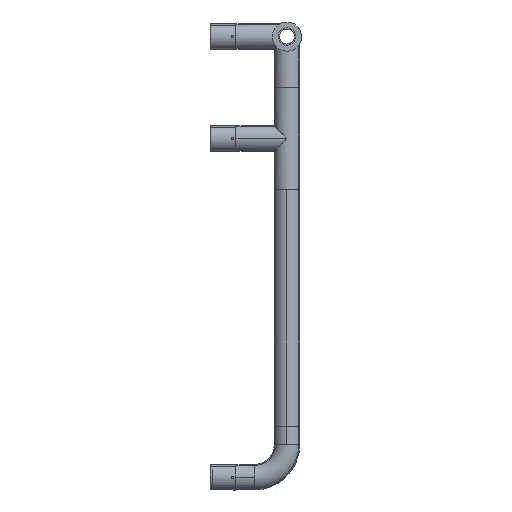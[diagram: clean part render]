
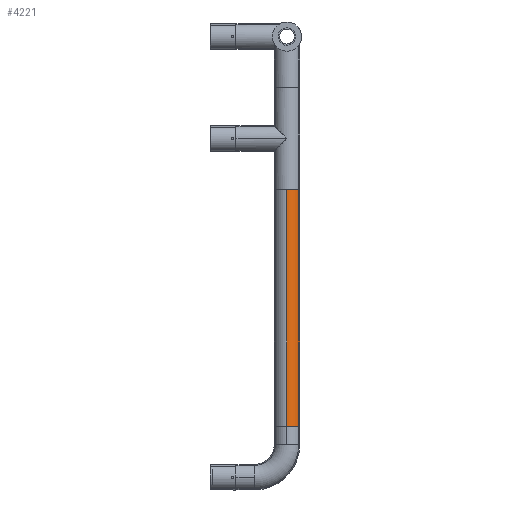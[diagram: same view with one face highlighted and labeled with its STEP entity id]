
A CAD part, front view. The second image highlights one B-rep face of the part: STEP entity #4221.
In plain terms, the highlighted cylindrical face has radius 17.5 mm (diameter 35 mm), a partial arc.
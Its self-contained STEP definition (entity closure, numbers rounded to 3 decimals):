
#50 = VECTOR ( 'NONE', #1231, 1000. ) ;
#373 = CARTESIAN_POINT ( 'NONE',  ( 0., 0., -162.5 ) ) ;
#460 = AXIS2_PLACEMENT_3D ( 'NONE', #2343, #1040, #1349 ) ;
#524 = CARTESIAN_POINT ( 'NONE',  ( 17.5, 0., 162.5 ) ) ;
#580 = ORIENTED_EDGE ( 'NONE', *, *, #1790, .F. ) ;
#803 = EDGE_LOOP ( 'NONE', ( #3957, #1683, #1093, #580 ) ) ;
#981 = CYLINDRICAL_SURFACE ( 'NONE', #460, 17.5 ) ;
#1040 = DIRECTION ( 'NONE',  ( 0., 0., -1. ) ) ;
#1071 = VERTEX_POINT ( 'NONE', #3843 ) ;
#1093 = ORIENTED_EDGE ( 'NONE', *, *, #3874, .T. ) ;
#1231 = DIRECTION ( 'NONE',  ( 0., 0., -1. ) ) ;
#1349 = DIRECTION ( 'NONE',  ( -1., 0., 0. ) ) ;
#1350 = DIRECTION ( 'NONE',  ( 1., 0., 0. ) ) ;
#1426 = AXIS2_PLACEMENT_3D ( 'NONE', #1680, #3042, #1350 ) ;
#1680 = CARTESIAN_POINT ( 'NONE',  ( 0., 0., 162.5 ) ) ;
#1683 = ORIENTED_EDGE ( 'NONE', *, *, #2541, .T. ) ;
#1790 = EDGE_CURVE ( 'NONE', #4216, #3473, #3216, .T. ) ;
#1947 = VECTOR ( 'NONE', #3171, 1000. ) ;
#2162 = AXIS2_PLACEMENT_3D ( 'NONE', #373, #2441, #2466 ) ;
#2343 = CARTESIAN_POINT ( 'NONE',  ( 0., 0., 162.5 ) ) ;
#2435 = CIRCLE ( 'NONE', #1426, 17.5 ) ;
#2441 = DIRECTION ( 'NONE',  ( 0., 0., 1. ) ) ;
#2466 = DIRECTION ( 'NONE',  ( 1., 0., 0. ) ) ;
#2541 = EDGE_CURVE ( 'NONE', #3641, #1071, #3915, .T. ) ;
#2668 = CARTESIAN_POINT ( 'NONE',  ( -17.5, 0., 162.5 ) ) ;
#2727 = FACE_OUTER_BOUND ( 'NONE', #803, .T. ) ;
#2930 = CARTESIAN_POINT ( 'NONE',  ( -17.5, 0., -162.5 ) ) ;
#2984 = CARTESIAN_POINT ( 'NONE',  ( 17.5, 0., 162.5 ) ) ;
#3042 = DIRECTION ( 'NONE',  ( 0., 0., 1. ) ) ;
#3171 = DIRECTION ( 'NONE',  ( 0., 0., -1. ) ) ;
#3216 = LINE ( 'NONE', #3888, #1947 ) ;
#3252 = EDGE_CURVE ( 'NONE', #3641, #4216, #2435, .T. ) ;
#3473 = VERTEX_POINT ( 'NONE', #2930 ) ;
#3641 = VERTEX_POINT ( 'NONE', #524 ) ;
#3843 = CARTESIAN_POINT ( 'NONE',  ( 17.5, 0., -162.5 ) ) ;
#3874 = EDGE_CURVE ( 'NONE', #1071, #3473, #4338, .T. ) ;
#3888 = CARTESIAN_POINT ( 'NONE',  ( -17.5, 0., 162.5 ) ) ;
#3915 = LINE ( 'NONE', #2984, #50 ) ;
#3957 = ORIENTED_EDGE ( 'NONE', *, *, #3252, .F. ) ;
#4216 = VERTEX_POINT ( 'NONE', #2668 ) ;
#4221 = ADVANCED_FACE ( 'NONE', ( #2727 ), #981, .T. ) ;
#4338 = CIRCLE ( 'NONE', #2162, 17.5 ) ;
